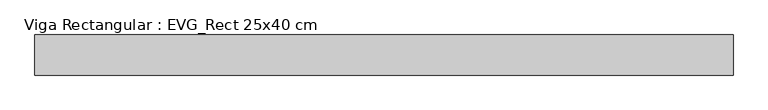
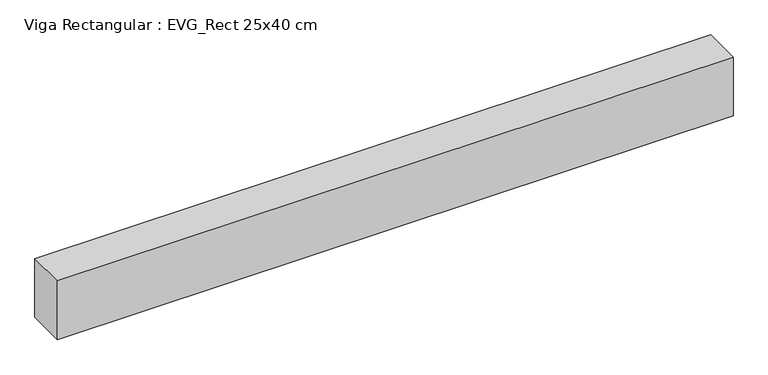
"""IFC4 building model written with IfcOpenShell, lengths in millimetres: beam geometry, Viga Rectangular : EVG_Rect 25x40 cm."""

from ifc_helpers import new_model, si_unit, frame, origin, place, context, project, spatial, polyline, outline, extrude, source, transform, mapped, element, save


def viga_rectangular_evg_rect_25x40_cm_41408228(model_context):
    return source(origin(), model_context, "Body", "SweptSolid", [
        extrude(outline(polyline([(1975.0, 125.0), (1975.0, -125.0), (-2375.0, -125.0), (-2375.0, 125.0), (1975.0, 125.0)])), frame((0.0, 0.0, -400.0), z_axis=(0.0, 0.0, 1.0), x_axis=(1.0, 0.0, 0.0)), (0.0, 0.0, 1.0), 400.0),
    ])


if __name__ == "__main__":
    model = new_model("IFC4")
    model_context = context("Model", 3, world=origin())
    ifc_project = project(units=[si_unit("LENGTHUNIT", "METRE", prefix="MILLI")], contexts=[model_context])
    site = spatial("IfcSite", under=ifc_project)
    building = spatial("IfcBuilding", under=site)
    placement = place(None, origin())
    viga_rectangular_evg_rect_25x40_cm_shape = viga_rectangular_evg_rect_25x40_cm_41408228(model_context)
    element("IfcBeam", 1, ObjectType="Viga Rectangular : EVG_Rect 25x40 cm", at=placement, inside=building, context=model_context, shape_type="MappedRepresentation", body=[
        mapped(viga_rectangular_evg_rect_25x40_cm_shape, transform((0.0, 0.0, 0.0), x_axis=(1.0, 0.0, 0.0), y_axis=(0.0, 1.0, 0.0), z_axis=(0.0, 0.0, 1.0))),
    ])
    save(model, "model.ifc")
